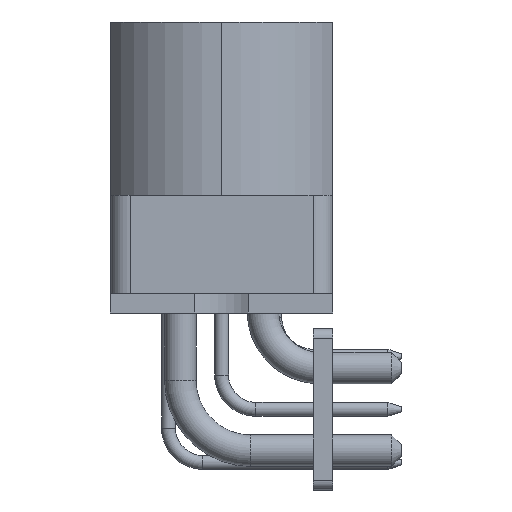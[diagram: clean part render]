
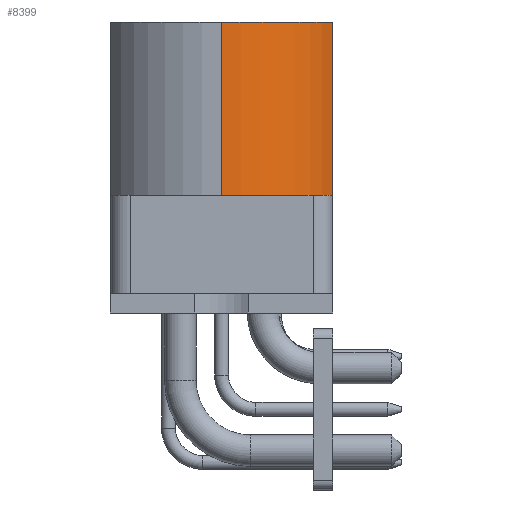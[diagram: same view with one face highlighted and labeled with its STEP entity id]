
A CAD part, left-side view. The second image highlights one B-rep face of the part: STEP entity #8399.
In plain terms, the highlighted cylindrical face has radius 6.37 mm (diameter 12.74 mm), a partial arc.
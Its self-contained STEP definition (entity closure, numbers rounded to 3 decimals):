
#256 = DIRECTION ( 'NONE',  ( 0., 0., -1. ) ) ;
#2108 = VECTOR ( 'NONE', #256, 1000. ) ;
#2250 = ORIENTED_EDGE ( 'NONE', *, *, #17223, .T. ) ;
#2319 = CARTESIAN_POINT ( 'NONE',  ( -15.9, 0., 9.2 ) ) ;
#3838 = CARTESIAN_POINT ( 'NONE',  ( -9.53, 0., 9.2 ) ) ;
#4073 = FACE_OUTER_BOUND ( 'NONE', #27183, .T. ) ;
#4570 = LINE ( 'NONE', #40689, #2108 ) ;
#5057 = DIRECTION ( 'NONE',  ( -1., 0., 0. ) ) ;
#8399 = ADVANCED_FACE ( 'NONE', ( #4073 ), #39957, .T. ) ;
#10142 = AXIS2_PLACEMENT_3D ( 'NONE', #45443, #37344, #5057 ) ;
#13287 = LINE ( 'NONE', #38887, #31396 ) ;
#13913 = VERTEX_POINT ( 'NONE', #31711 ) ;
#15999 = ORIENTED_EDGE ( 'NONE', *, *, #31222, .F. ) ;
#17223 = EDGE_CURVE ( 'NONE', #29235, #13913, #30665, .T. ) ;
#18009 = ORIENTED_EDGE ( 'NONE', *, *, #42842, .F. ) ;
#18849 = CARTESIAN_POINT ( 'NONE',  ( -9.53, 0., 0.4 ) ) ;
#20175 = ORIENTED_EDGE ( 'NONE', *, *, #36001, .T. ) ;
#21506 = AXIS2_PLACEMENT_3D ( 'NONE', #18849, #32523, #29148 ) ;
#25227 = CARTESIAN_POINT ( 'NONE',  ( -15.9, 0., 0.4 ) ) ;
#25357 = CIRCLE ( 'NONE', #10142, 6.37 ) ;
#27183 = EDGE_LOOP ( 'NONE', ( #15999, #20175, #2250, #18009 ) ) ;
#29148 = DIRECTION ( 'NONE',  ( -1., 0., 0. ) ) ;
#29235 = VERTEX_POINT ( 'NONE', #25227 ) ;
#29598 = VERTEX_POINT ( 'NONE', #42915 ) ;
#30665 = CIRCLE ( 'NONE', #21506, 6.37 ) ;
#31222 = EDGE_CURVE ( 'NONE', #41639, #29598, #25357, .T. ) ;
#31396 = VECTOR ( 'NONE', #31703, 1000. ) ;
#31703 = DIRECTION ( 'NONE',  ( 0., 0., -1. ) ) ;
#31711 = CARTESIAN_POINT ( 'NONE',  ( -12.472, -5.65, 0.4 ) ) ;
#32523 = DIRECTION ( 'NONE',  ( 0., 0., 1. ) ) ;
#36001 = EDGE_CURVE ( 'NONE', #41639, #29235, #4570, .T. ) ;
#36365 = DIRECTION ( 'NONE',  ( -1., 0., 0. ) ) ;
#37344 = DIRECTION ( 'NONE',  ( 0., 0., 1. ) ) ;
#38887 = CARTESIAN_POINT ( 'NONE',  ( -12.472, -5.65, 9.2 ) ) ;
#39957 = CYLINDRICAL_SURFACE ( 'NONE', #44218, 6.37 ) ;
#40689 = CARTESIAN_POINT ( 'NONE',  ( -15.9, 0., 9.2 ) ) ;
#41639 = VERTEX_POINT ( 'NONE', #2319 ) ;
#42842 = EDGE_CURVE ( 'NONE', #29598, #13913, #13287, .T. ) ;
#42915 = CARTESIAN_POINT ( 'NONE',  ( -12.472, -5.65, 9.2 ) ) ;
#43993 = DIRECTION ( 'NONE',  ( 0., 0., -1. ) ) ;
#44218 = AXIS2_PLACEMENT_3D ( 'NONE', #3838, #43993, #36365 ) ;
#45443 = CARTESIAN_POINT ( 'NONE',  ( -9.53, 0., 9.2 ) ) ;
